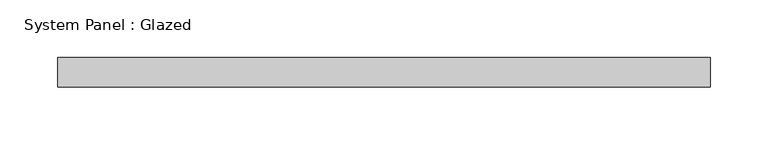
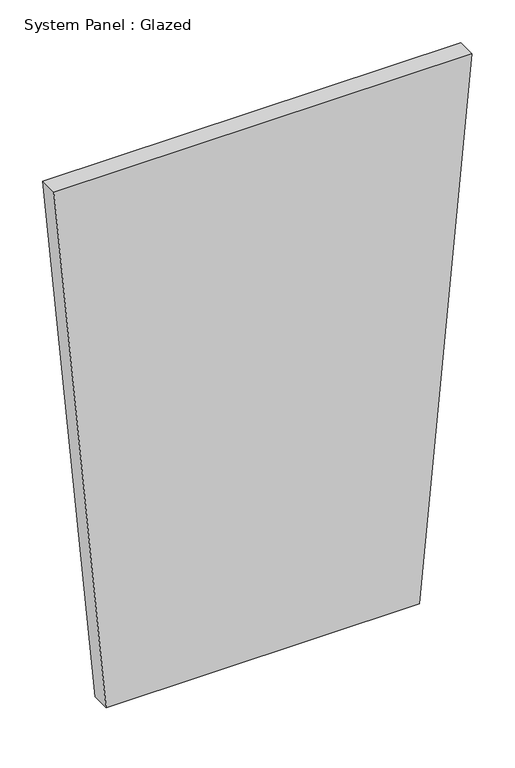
"""IFC4 building model written with IfcOpenShell, lengths in millimetres: plate geometry, System Panel : Glazed."""

from ifc_helpers import new_model, si_unit, frame, origin, place, context, project, spatial, polyline, outline, extrude, source, transform, mapped, element, save


def system_panel_glazed_a08e28a9(model_context):
    return source(origin(), model_context, "Body", "SweptSolid", [
        extrude(outline(polyline([(0.0, -211.3407748), (0.0, 211.3407748), (758.7366017, 281.7876997), (758.7366017, -281.7876997), (0.0, -211.3407748)])), frame((0.0, -44.45, 0.0), z_axis=(0.0, 1.0, 0.0), x_axis=(0.0, 0.0, 1.0)), (0.0, 0.0, 1.0), 25.4),
    ])


if __name__ == "__main__":
    model = new_model("IFC4")
    model_context = context("Model", 3, world=origin())
    ifc_project = project(units=[si_unit("LENGTHUNIT", "METRE", prefix="MILLI")], contexts=[model_context])
    site = spatial("IfcSite", under=ifc_project)
    building = spatial("IfcBuilding", under=site)
    placement = place(None, origin())
    system_panel_glazed_shape = system_panel_glazed_a08e28a9(model_context)
    element("IfcPlate", 1, ObjectType="System Panel : Glazed", at=placement, inside=building, context=model_context, shape_type="MappedRepresentation", body=[
        mapped(system_panel_glazed_shape, transform((0.0, 0.0, 0.0), x_axis=(1.0, 0.0, 0.0), y_axis=(0.0, 1.0, 0.0), z_axis=(0.0, 0.0, 1.0))),
    ])
    save(model, "model.ifc")
